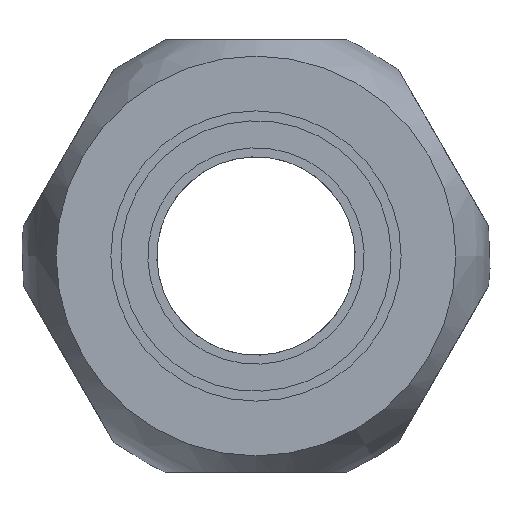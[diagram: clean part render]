
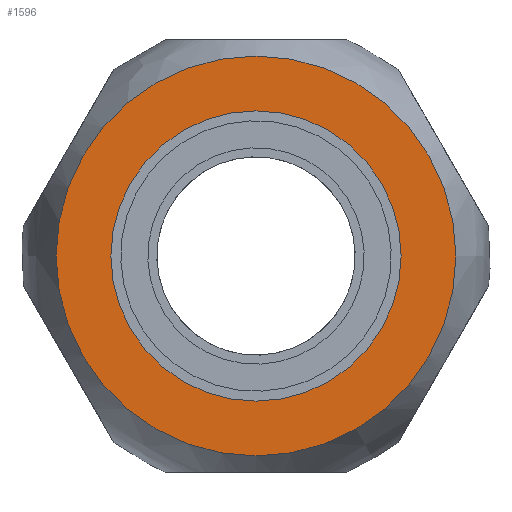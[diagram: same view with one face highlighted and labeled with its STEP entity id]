
A CAD part, left-side view. The second image highlights one B-rep face of the part: STEP entity #1596.
In plain terms, the highlighted planar face has unit normal (-1, 0, 0).
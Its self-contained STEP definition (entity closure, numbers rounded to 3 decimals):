
#1533=CARTESIAN_POINT('',(0.0,11.089,0.0));
#1534=VERTEX_POINT('',#1533);
#1535=CARTESIAN_POINT('',(0.0,0.0,0.0));
#1536=DIRECTION('',(1.0,0.0,0.0));
#1537=DIRECTION('',(0.0,1.0,0.0));
#1538=AXIS2_PLACEMENT_3D('',#1535,#1536,#1537);
#1539=CIRCLE('',#1538,11.089);
#1540=EDGE_CURVE('',#1534,#1534,#1539,.T.);
#1570=CARTESIAN_POINT('',(0.0,8.05,0.0));
#1571=VERTEX_POINT('',#1570);
#1572=CARTESIAN_POINT('',(0.0,0.0,0.0));
#1573=DIRECTION('',(1.0,0.0,0.0));
#1574=DIRECTION('',(0.0,1.0,0.0));
#1575=AXIS2_PLACEMENT_3D('',#1572,#1573,#1574);
#1576=CIRCLE('',#1575,8.05);
#1577=EDGE_CURVE('',#1571,#1571,#1576,.T.);
#1585=CARTESIAN_POINT('',(0.0,9.569,0.0));
#1586=DIRECTION('',(-1.0,0.0,0.0));
#1587=DIRECTION('',(0.0,0.0,1.0));
#1588=AXIS2_PLACEMENT_3D('',#1585,#1586,#1587);
#1589=PLANE('',#1588);
#1590=ORIENTED_EDGE('',*,*,#1540,.F.);
#1591=EDGE_LOOP('',(#1590));
#1592=FACE_OUTER_BOUND('',#1591,.T.);
#1593=ORIENTED_EDGE('',*,*,#1577,.T.);
#1594=EDGE_LOOP('',(#1593));
#1595=FACE_BOUND('',#1594,.T.);
#1596=ADVANCED_FACE('',(#1592,#1595),#1589,.T.);
